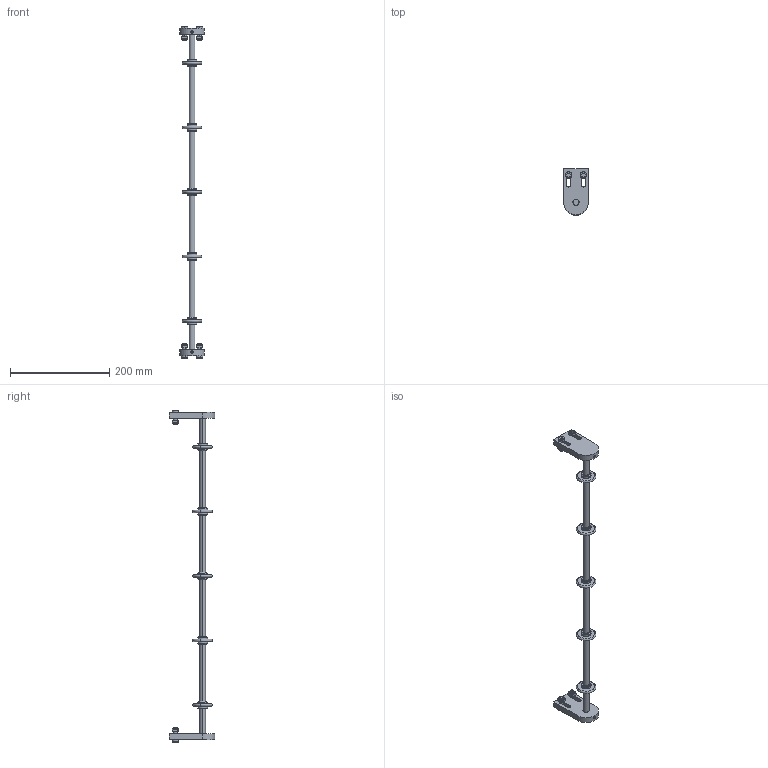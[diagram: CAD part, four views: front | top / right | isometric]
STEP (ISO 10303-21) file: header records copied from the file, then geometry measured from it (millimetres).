
FILE_DESCRIPTION (( 'STEP AP203' ), '1' );
FILE_NAME ('084.095.KSW.600.STEP', '2019-07-30T08:43:26', ( '' ), ( '' ), 'SwSTEP 2.0', 'SolidWorks 2018', '' );
FILE_SCHEMA (( 'CONFIG_CONTROL_DESIGN' ));
Length unit declared in the file: millimetre
Products named in the file (7): GRANI A PUNTA PIATTA UNI 5923_M6x16 UNI 5923; 084.302.000 DADI ALUSIC 13x13-1_084.302.004; 084.301.000 VITI ALUSIC_084.301.004; 084.095.KSW.600; Parte359^084.095.KSW.600; 084.802.041; 084.802.030
Assembly tree (18 placements, depth 2):
  084.095.KSW.600
    Parte359^084.095.KSW.600
    084.802.041  x5
    084.802.030  x2
    GRANI A PUNTA PIATTA UNI 5923_M6x16 UNI 5923  x2
    084.301.000 VITI ALUSIC_084.301.004  x4
    084.302.000 DADI ALUSIC 13x13-1_084.302.004  x4
Bounding box: 50 x 92.5 x 669 mm (x, y, z)
Volume: 211407.9 mm3; surface area: 77942.7 mm2
Topology: 18 solids, 18 shells, 320 faces, 734 edges, 472 vertices
Faces by surface type: plane 124, cylinder 94, cone 44, torus 42, bspline 16
Entity records: 4289 total; most frequent: CARTESIAN_POINT 995, DIRECTION 492, ORIENTED_EDGE 440, EDGE_CURVE 220, AXIS2_PLACEMENT_3D 193, VERTEX_POINT 142, EDGE_LOOP 112, VECTOR 106
